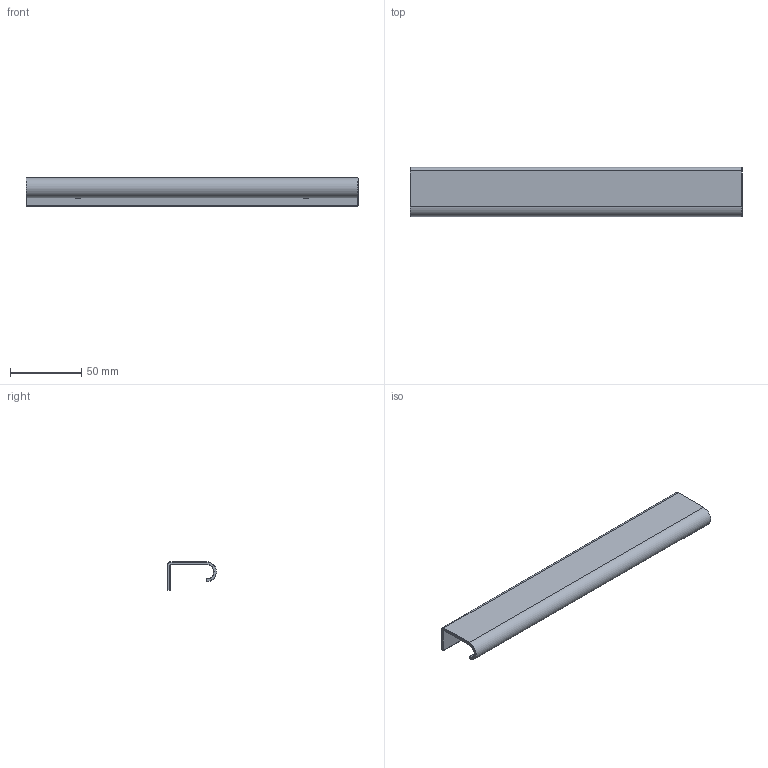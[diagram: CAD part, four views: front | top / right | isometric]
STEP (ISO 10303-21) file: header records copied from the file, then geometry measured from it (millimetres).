
FILE_DESCRIPTION(('Open CASCADE Model'),'2;1');
FILE_NAME('RL-LIP-R-233','2026-10-19T21:24:02',('Author'),( 'Open CASCADE'),'Open CASCADE STEP processor 8.0','build123d', 'Unknown');
FILE_SCHEMA(('AUTOMOTIVE_DESIGN { 1 0 10303 214 1 1 1 1 }'));
Length unit declared in the file: millimetre
Products named in the file (2): RL-LIP-R-233; brass_RL-LIPR233-18__e
Assembly tree (1 placements, depth 2):
  RL-LIP-R-233
    brass_RL-LIPR233-18__e
Bounding box: 233 x 34.5 x 20 mm (x, y, z)
Volume: 29602 mm3; surface area: 30755.7 mm2
Topology: 1 solids, 1 shells, 40 faces, 90 edges, 52 vertices
Faces by surface type: plane 20, cone 12, cylinder 8
Full cylindrical faces by diameter (mm): 4.5 x2
Entity records: 2302 total; most frequent: CARTESIAN_POINT 492, DIRECTION 328, ORIENTED_EDGE 180, PCURVE 180, DEFINITIONAL_REPRESENTATION 180, LINE 174, VECTOR 174, EDGE_CURVE 90
